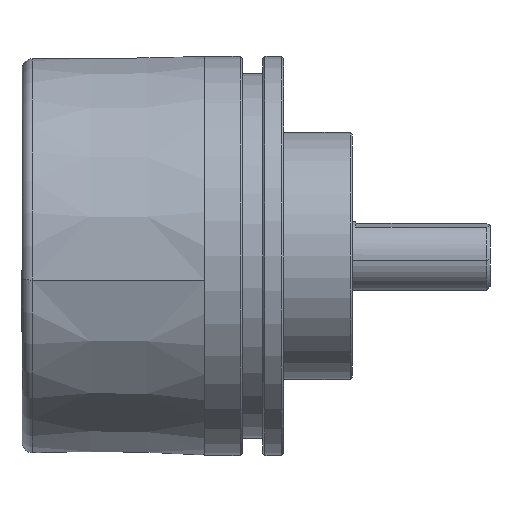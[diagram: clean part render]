
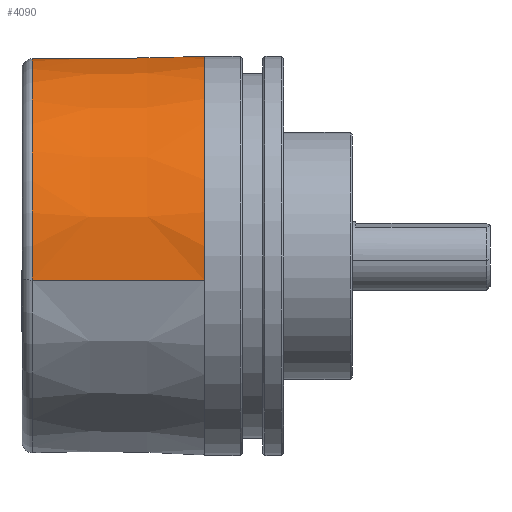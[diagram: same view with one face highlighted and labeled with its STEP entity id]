
A CAD part, front view. The second image highlights one B-rep face of the part: STEP entity #4090.
In plain terms, the highlighted conical face has half-angle 0.75 degrees and reference radius 29 mm.
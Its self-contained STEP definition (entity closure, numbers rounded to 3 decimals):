
#4032 = ORIENTED_EDGE ( 'NONE', *, *, #4033, .T. ) ;
#4033 = EDGE_CURVE ( 'NONE', #4063, #4034, #11146, .T. ) ;
#4034 = VERTEX_POINT ( 'NONE', #11142 ) ;
#4035 = ORIENTED_EDGE ( 'NONE', *, *, #4036, .T. ) ;
#4036 = EDGE_CURVE ( 'NONE', #4034, #4037, #11141, .T. ) ;
#4037 = VERTEX_POINT ( 'NONE', #11136 ) ;
#4038 = ORIENTED_EDGE ( 'NONE', *, *, #4039, .T. ) ;
#4039 = EDGE_CURVE ( 'NONE', #4037, #4062, #11133, .T. ) ;
#4060 = ORIENTED_EDGE ( 'NONE', *, *, #4061, .T. ) ;
#4061 = EDGE_CURVE ( 'NONE', #4062, #4063, #11076, .T. ) ;
#4062 = VERTEX_POINT ( 'NONE', #11077 ) ;
#4063 = VERTEX_POINT ( 'NONE', #11244 ) ;
#4090 = ADVANCED_FACE ( 'NONE', ( #11191 ), #9724, .T. ) ;
#4091 = EDGE_LOOP ( 'NONE', ( #4060, #4032, #4035, #4038 ) ) ;
#9724 = CONICAL_SURFACE ( 'NONE', #9779, 29., 0.013 ) ;
#9776 = DIRECTION ( 'NONE',  ( 0., -0.993, -0.122 ) ) ;
#9777 = DIRECTION ( 'NONE',  ( 1., 0., 0. ) ) ;
#9778 = CARTESIAN_POINT ( 'NONE',  ( 3.54, -8.157, 2.603 ) ) ;
#9779 = AXIS2_PLACEMENT_3D ( 'NONE', #9778, #9777, #9776 ) ;
#11059 = CARTESIAN_POINT ( 'NONE',  ( -21.48, 13.767, 21.082 ) ) ;
#11060 = CARTESIAN_POINT ( 'NONE',  ( -18.139, 13.825, 21.081 ) ) ;
#11061 = CARTESIAN_POINT ( 'NONE',  ( -14.799, 13.884, 21.079 ) ) ;
#11062 = CARTESIAN_POINT ( 'NONE',  ( -11.458, 13.942, 21.077 ) ) ;
#11063 = CARTESIAN_POINT ( 'NONE',  ( -7.459, 14.012, 21.075 ) ) ;
#11064 = CARTESIAN_POINT ( 'NONE',  ( -3.459, 14.082, 21.074 ) ) ;
#11065 = CARTESIAN_POINT ( 'NONE',  ( 0.54, 14.151, 21.072 ) ) ;
#11072 = DIRECTION ( 'NONE',  ( 0., 0.993, 0.122 ) ) ;
#11073 = DIRECTION ( 'NONE',  ( 1., 0., 0. ) ) ;
#11074 = CARTESIAN_POINT ( 'NONE',  ( -21.48, -8.157, 2.603 ) ) ;
#11075 = AXIS2_PLACEMENT_3D ( 'NONE', #11074, #11073, #11072 ) ;
#11076 = CIRCLE ( 'NONE', #11075, 28.672 ) ;
#11077 = CARTESIAN_POINT ( 'NONE',  ( -21.48, 13.767, 21.082 ) ) ;
#11129 = CARTESIAN_POINT ( 'NONE',  ( 1.54, 14.169, 21.071 ) ) ;
#11130 = CARTESIAN_POINT ( 'NONE',  ( 2.54, 14.186, 21.071 ) ) ;
#11131 = CARTESIAN_POINT ( 'NONE',  ( 3.54, 14.203, 21.07 ) ) ;
#11133 = B_SPLINE_CURVE_WITH_KNOTS ( 'NONE', 3,
 ( #11131, #11130, #11129, #11065, #11064, #11063, #11062, #11061, #11060, #11059 ),
 .UNSPECIFIED., .F., .F.,
 ( 4, 3, 3, 4 ),
 ( 0., 0.003, 0.015, 0.025 ),
 .UNSPECIFIED. ) ;
#11136 = CARTESIAN_POINT ( 'NONE',  ( 3.54, 14.203, 21.07 ) ) ;
#11137 = DIRECTION ( 'NONE',  ( 0., 0.993, 0.122 ) ) ;
#11138 = DIRECTION ( 'NONE',  ( -1., 0., 0. ) ) ;
#11139 = CARTESIAN_POINT ( 'NONE',  ( 3.54, -8.157, 2.603 ) ) ;
#11140 = AXIS2_PLACEMENT_3D ( 'NONE', #11139, #11138, #11137 ) ;
#11141 = CIRCLE ( 'NONE', #11140, 29. ) ;
#11142 = CARTESIAN_POINT ( 'NONE',  ( 3.54, -36.94, -0.931 ) ) ;
#11143 = DIRECTION ( 'NONE',  ( 1., -0.013, -0.002 ) ) ;
#11144 = VECTOR ( 'NONE', #11143, 1000. ) ;
#11145 = CARTESIAN_POINT ( 'NONE',  ( 3.54, -36.94, -0.931 ) ) ;
#11146 = LINE ( 'NONE', #11145, #11144 ) ;
#11191 = FACE_OUTER_BOUND ( 'NONE', #4091, .T. ) ;
#11244 = CARTESIAN_POINT ( 'NONE',  ( -21.48, -36.615, -0.891 ) ) ;
